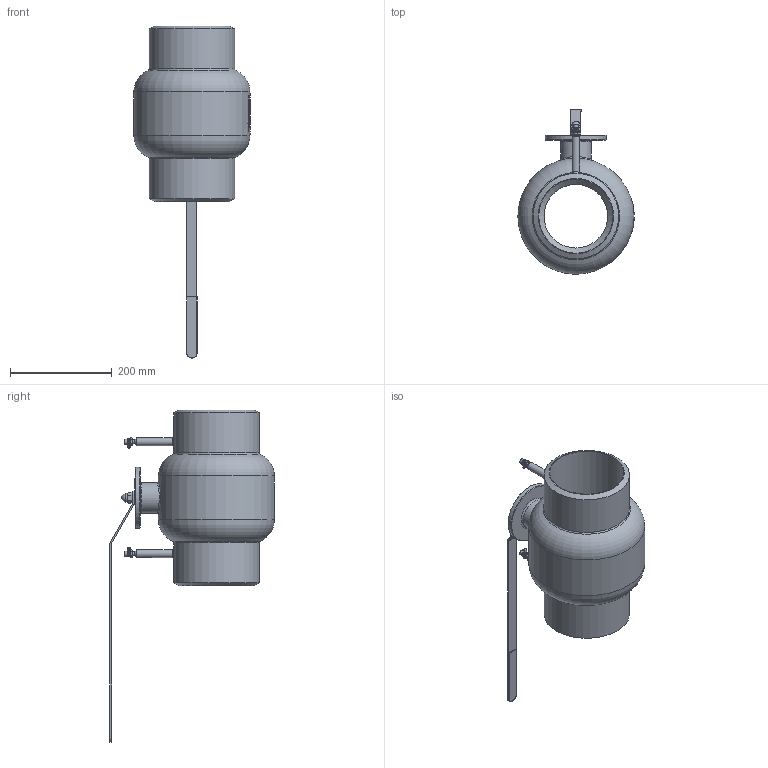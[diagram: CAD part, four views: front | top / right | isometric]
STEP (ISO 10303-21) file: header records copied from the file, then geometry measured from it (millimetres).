
FILE_DESCRIPTION(('STEP AP214'), '1');
FILE_NAME('BVR3232P-SP-W-H Êðàí øàðîâîé ðåãóëèðóþùèé DN.ru Äó150 Py16', '', ('UNSPECIFIED'), ('UNSPECIFIED'), 'C3D Converter', 'C3D Toolkit', '');
FILE_SCHEMA(('AUTOMOTIVE_DESIGN { 1 0 10303 214 3 1 1}'));
Length unit declared in the file: millimetre
Products named in the file (1): BVR3232P-SP-W-H
Bounding box: 228.47 x 324 x 652.5 mm (x, y, z)
Volume: 5357225.7 mm3; surface area: 448617.5 mm2
Topology: 1 solids, 1 shells, 846 faces, 2180 edges, 1445 vertices
Faces by surface type: plane 416, bspline 188, extrusion 127, cylinder 87, cone 18, torus 9, sphere 1
Full cylindrical faces by diameter (mm): 8 x10, 10 x4, 12 x1, 15 x2, 17 x1, 60 x1, 120 x1, 125 x1, 146 x2, 168 x2, 228 x1
Entity records: 88107 total; most frequent: CARTESIAN_POINT 68158, ORIENTED_EDGE 4250, DIRECTION 2762, EDGE_CURVE 2125, VERTEX_POINT 1443, VECTOR 1200, LINE 1073, EDGE_LOOP 1014
